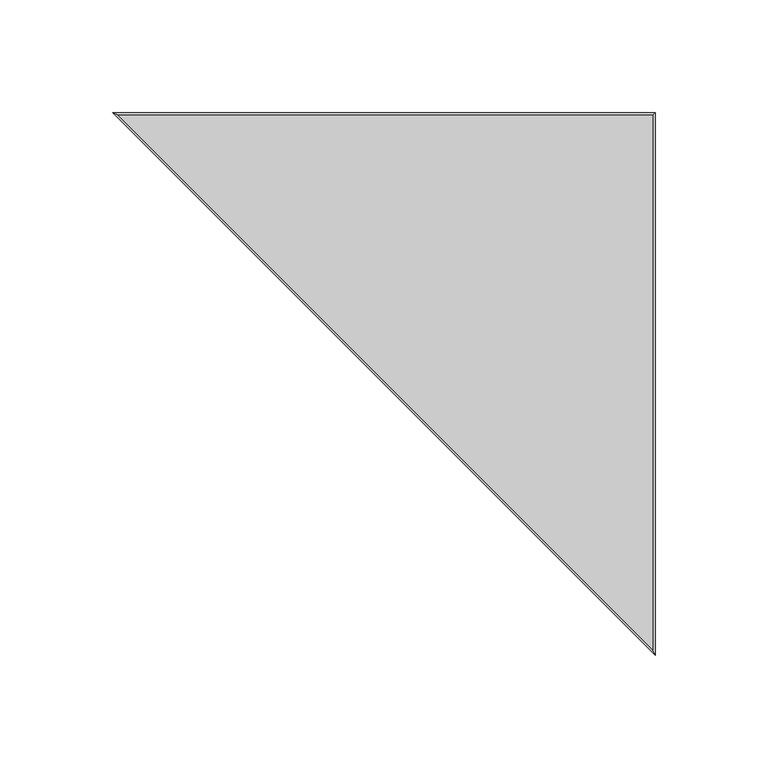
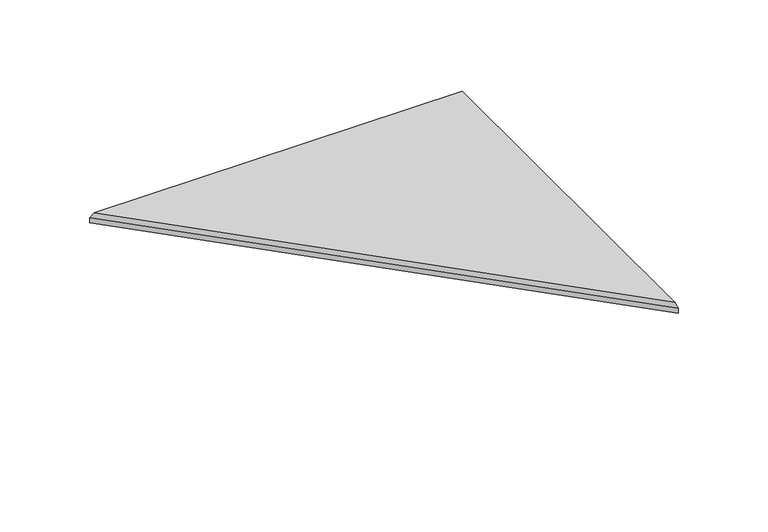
"""IFC4 building model written with IfcOpenShell, lengths in millimetres: sanitary terminal geometry, NLRS_PF_52_UN_Aqua Plus Delta_in_uitloop_Easydrain : Aqua Plus Delta onderuitloop 50mm, zij-ingang 40mm."""

from ifc_helpers import new_model, si_unit, frame, origin, place, context, project, spatial, polyline, outline, extrude, faceted_brep, source, transform, mapped, element, save


def sanitary_terminal_2ebfcd1c(model_context):
    return source(origin(), model_context, "Body", "SolidModel", [
        faceted_brep([(73.0, 73.0, -6.5), (73.0, -167.0, -6.5), (-167.0, 73.0, -6.5), (72.0, -164.5857864, 0.0), (72.0, 72.0, 0.0), (-164.5857864, 72.0, 0.0), (-167.0, 73.0, -3.0), (73.0, 73.0, -3.0), (73.0, -167.0, -3.0)], [[[0, 1, 2]], [[3, 4, 5]], [[0, 2, 6, 7]], [[2, 1, 8, 6]], [[1, 0, 7, 8]], [[3, 8, 7, 4]], [[8, 3, 5, 6]], [[4, 7, 6, 5]]]),
        extrude(outline(polyline([(68.0, 68.0), (68.0, -137.9289322), (-137.9289322, 68.0), (68.0, 68.0)])), frame((0.0, 0.0, -10.0), z_axis=(0.0, 0.0, 1.0), x_axis=(1.0, 0.0, 0.0)), (0.0, 0.0, 1.0), 3.5),
    ])


if __name__ == "__main__":
    model = new_model("IFC4")
    model_context = context("Model", 3, world=origin())
    ifc_project = project(units=[si_unit("LENGTHUNIT", "METRE", prefix="MILLI")], contexts=[model_context])
    site = spatial("IfcSite", under=ifc_project)
    building = spatial("IfcBuilding", under=site)
    placement = place(None, origin())
    sanitary_terminal_shape = sanitary_terminal_2ebfcd1c(model_context)
    element("IfcSanitaryTerminal", 1, ObjectType="NLRS_PF_52_UN_Aqua Plus Delta_in_uitloop_Easydrain : Aqua Plus Delta onderuitloop 50mm, zij-ingang 40mm", at=placement, inside=building, context=model_context, shape_type="MappedRepresentation", body=[
        mapped(sanitary_terminal_shape, transform((0.0, 0.0, 0.0), x_axis=(1.0, 0.0, 0.0), y_axis=(0.0, 1.0, 0.0), z_axis=(0.0, 0.0, 1.0))),
    ])
    save(model, "model.ifc")
